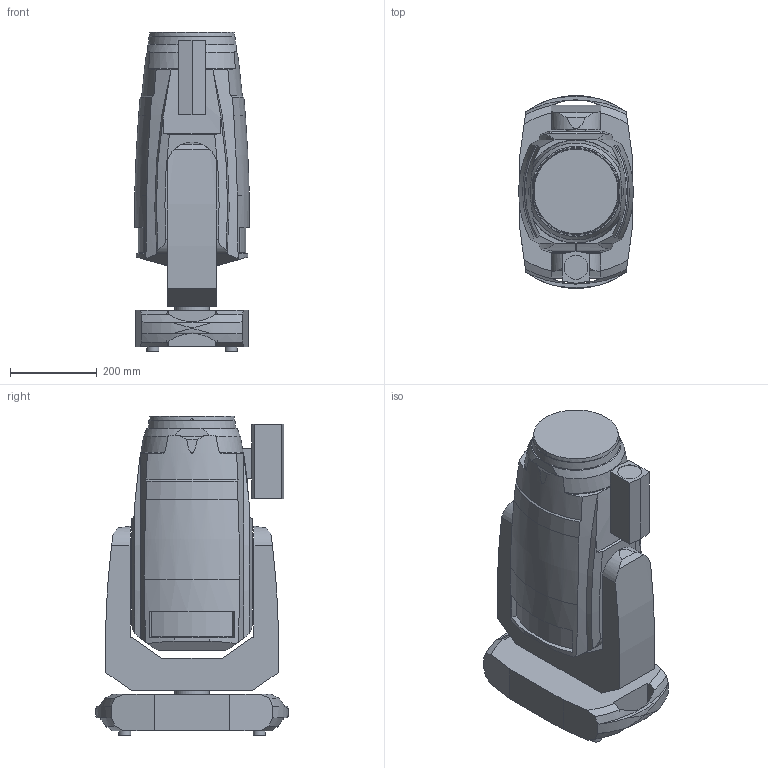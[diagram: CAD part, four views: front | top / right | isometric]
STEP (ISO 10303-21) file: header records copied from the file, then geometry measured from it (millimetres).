
FILE_DESCRIPTION(/* description */ ('Unknown'),/* implementation_level */ '2;1');
FILE_NAME(/* name */ '3D_Esprite with Cam',/* time_stamp */ '2020-03-17T11:05:34+01:00',/* author */ ('Ing.Rostislav HĂˇba'),/* organization */ ('ROBE lighting'),/* preprocessor_version */ 'ST-DEVELOPER v16.7',/* originating_system */ 'Solid Edge',/* authorisation */ 'Unknown');
FILE_SCHEMA (('AUTOMOTIVE_DESIGN {1 0 10303 214 3 1 1}'));
Length unit declared in the file: millimetre
Products named in the file (4): 3D_Esprite with Cam; Tarrantula_Base; 3D_Head Esprite with Cam; 3D_Arm Esprite
Assembly tree (3 placements, depth 2):
  3D_Esprite with Cam
    Tarrantula_Base
    3D_Head Esprite with Cam
    3D_Arm Esprite
Bounding box: 264.28 x 444.41 x 736.26 mm (x, y, z)
Volume: 45497643.3 mm3; surface area: 1309936.5 mm2
Topology: 3 solids, 3 shells, 183 faces, 508 edges, 340 vertices
Faces by surface type: plane 97, cylinder 32, cone 32, bspline 12, torus 10
Full cylindrical faces by diameter (mm): 9.354 x4, 22 x2, 27.957 x4, 44 x1, 55 x1, 60 x1, 80.323 x1
Entity records: 6267 total; most frequent: CARTESIAN_POINT 1807, ORIENTED_EDGE 962, DIRECTION 822, EDGE_CURVE 481, VERTEX_POINT 332, AXIS2_PLACEMENT_3D 329, FACE_BOUND 217, EDGE_LOOP 215
